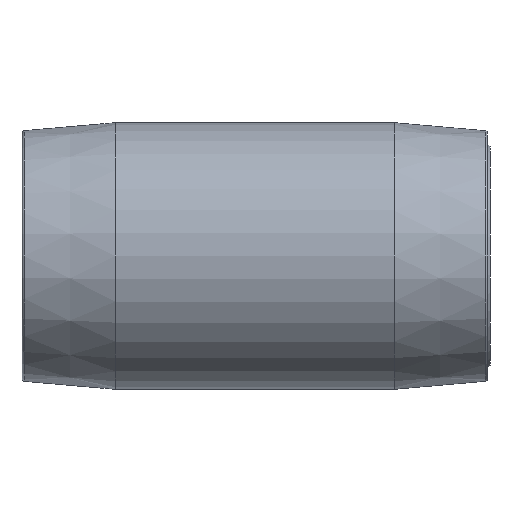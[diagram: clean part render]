
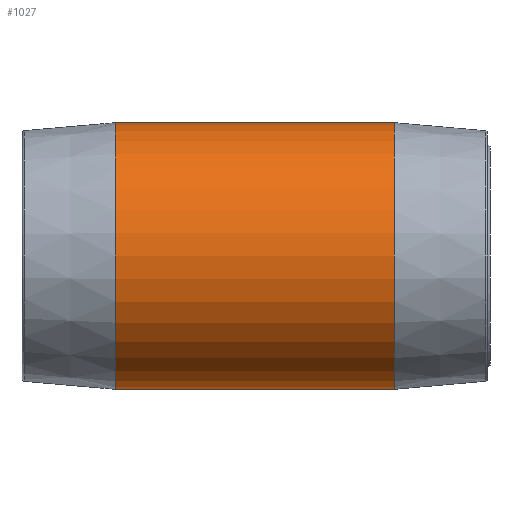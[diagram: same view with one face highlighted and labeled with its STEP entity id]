
A CAD part, front view. The second image highlights one B-rep face of the part: STEP entity #1027.
In plain terms, the highlighted cylindrical face has radius 25.775 mm (diameter 51.55 mm), a partial arc.
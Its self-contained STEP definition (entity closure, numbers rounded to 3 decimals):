
#35 = VERTEX_POINT ( 'NONE', #2087 ) ;
#88 = VERTEX_POINT ( 'NONE', #908 ) ;
#139 = CARTESIAN_POINT ( 'NONE',  ( 18., 0., -25.775 ) ) ;
#146 = CARTESIAN_POINT ( 'NONE',  ( 72., 0., -25.775 ) ) ;
#286 = EDGE_LOOP ( 'NONE', ( #419, #652, #1241, #1576 ) ) ;
#330 = VECTOR ( 'NONE', #931, 1000. ) ;
#332 = DIRECTION ( 'NONE',  ( 0., 0., 1. ) ) ;
#350 = EDGE_CURVE ( 'NONE', #1035, #88, #998, .T. ) ;
#389 = LINE ( 'NONE', #745, #330 ) ;
#419 = ORIENTED_EDGE ( 'NONE', *, *, #492, .F. ) ;
#491 = DIRECTION ( 'NONE',  ( 0., 0., 1. ) ) ;
#492 = EDGE_CURVE ( 'NONE', #1035, #1293, #2085, .T. ) ;
#547 = CARTESIAN_POINT ( 'NONE',  ( 0., 0., 0. ) ) ;
#642 = FACE_OUTER_BOUND ( 'NONE', #286, .T. ) ;
#652 = ORIENTED_EDGE ( 'NONE', *, *, #350, .T. ) ;
#671 = DIRECTION ( 'NONE',  ( -1., 0., 0. ) ) ;
#745 = CARTESIAN_POINT ( 'NONE',  ( 0., 0., 25.775 ) ) ;
#841 = DIRECTION ( 'NONE',  ( -1., 0., 0. ) ) ;
#908 = CARTESIAN_POINT ( 'NONE',  ( 72., 0., 25.775 ) ) ;
#931 = DIRECTION ( 'NONE',  ( -1., 0., 0. ) ) ;
#998 = CIRCLE ( 'NONE', #1614, 25.775 ) ;
#1027 = ADVANCED_FACE ( 'NONE', ( #642 ), #1765, .T. ) ;
#1035 = VERTEX_POINT ( 'NONE', #146 ) ;
#1052 = CIRCLE ( 'NONE', #1068, 25.775 ) ;
#1068 = AXIS2_PLACEMENT_3D ( 'NONE', #2127, #2153, #2158 ) ;
#1218 = EDGE_CURVE ( 'NONE', #1293, #35, #1052, .T. ) ;
#1241 = ORIENTED_EDGE ( 'NONE', *, *, #1282, .T. ) ;
#1282 = EDGE_CURVE ( 'NONE', #88, #35, #389, .T. ) ;
#1283 = CARTESIAN_POINT ( 'NONE',  ( 0., 0., -25.775 ) ) ;
#1293 = VERTEX_POINT ( 'NONE', #139 ) ;
#1505 = CARTESIAN_POINT ( 'NONE',  ( 72., 0., 0. ) ) ;
#1576 = ORIENTED_EDGE ( 'NONE', *, *, #1218, .F. ) ;
#1610 = DIRECTION ( 'NONE',  ( -1., 0., 0. ) ) ;
#1614 = AXIS2_PLACEMENT_3D ( 'NONE', #1505, #671, #491 ) ;
#1660 = VECTOR ( 'NONE', #1610, 1000. ) ;
#1765 = CYLINDRICAL_SURFACE ( 'NONE', #1850, 25.775 ) ;
#1850 = AXIS2_PLACEMENT_3D ( 'NONE', #547, #841, #332 ) ;
#2085 = LINE ( 'NONE', #1283, #1660 ) ;
#2087 = CARTESIAN_POINT ( 'NONE',  ( 18., 0., 25.775 ) ) ;
#2127 = CARTESIAN_POINT ( 'NONE',  ( 18., 0., 0. ) ) ;
#2153 = DIRECTION ( 'NONE',  ( -1., 0., 0. ) ) ;
#2158 = DIRECTION ( 'NONE',  ( 0., 0., 1. ) ) ;
